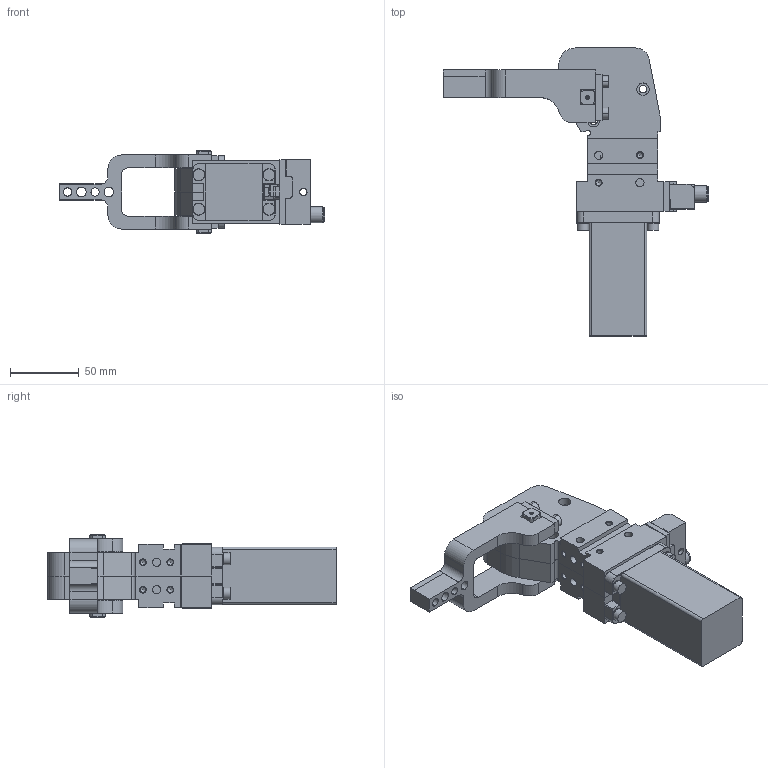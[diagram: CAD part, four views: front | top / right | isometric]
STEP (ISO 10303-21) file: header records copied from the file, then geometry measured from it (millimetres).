
FILE_DESCRIPTION(/* description */ (''),/* implementation_level */ '2;1');
FILE_NAME(/* name */ 'P32-32_0-Montaj_stp.stp',/* time_stamp */ '2020-12-11T10:59:40+03:00',/* author */ (''),/* organization */ (''),/* preprocessor_version */ 'ST-DEVELOPER v16',/* originating_system */ 'SIEMENS PLM Software NX 11.0',/* authorisation */ '');
FILE_SCHEMA (('AUTOMOTIVE_DESIGN { 1 0 10303 214 3 1 1 1 }'));
Length unit declared in the file: millimetre
Products named in the file (15): P32-32-17_Uzun_montaj_pimi; P32-32-18_Kisa_montaj_pimi; P32-32-10_Sari_burc_tahrik_mili yataklama; P32-32-09_Kucuk_rulman; P32-32-08_Rulman_destek_plakasi; P32-32-16_Sensor_kontrol_1650065_P1; P32-32-15_Sensor Kartus; P32-32-04_piston_borusu; P32-32-06_Baski_tirnagi; P32-32-05_tahrik_mili; P32-32-13_M5_vida; P32-32-03_Piston_ust_kapak; P32-32-10_Baski_kolu; P32-32-02_Govde_sol; P32-32_Montaj_stp
Assembly tree (15 placements, depth 2):
  P32-32_Montaj_stp
    P32-32-02_Govde_sol
    P32-32-10_Baski_kolu
    P32-32-03_Piston_ust_kapak
    P32-32-13_M5_vida
    P32-32-05_tahrik_mili
    P32-32-06_Baski_tirnagi
    P32-32-04_piston_borusu
    P32-32-15_Sensor Kartus
    P32-32-16_Sensor_kontrol_1650065_P1
    P32-32-08_Rulman_destek_plakasi
    P32-32-09_Kucuk_rulman  x2
    P32-32-10_Sari_burc_tahrik_mili yataklama
    P32-32-18_Kisa_montaj_pimi
    P32-32-17_Uzun_montaj_pimi
Bounding box: 193 x 209.5 x 60 mm (x, y, z)
Volume: 377108.7 mm3; surface area: 137617.7 mm2
Topology: 23 solids, 23 shells, 770 faces, 1943 edges, 1276 vertices
Faces by surface type: plane 388, cylinder 237, cone 139, torus 3, sphere 3
Full cylindrical faces by diameter (mm): 1.8 x2, 2 x2, 2.5 x2, 3.2 x10, 3.242 x2, 3.3 x4, 4.134 x16, 4.5 x4, 5 x6, 5.3 x4, 5.4 x1, 5.5 x8, 6 x8, 6.5 x1, 7.55 x2, 8 x10, 8.3 x1, 8.5 x4, 8.566 x2, 8.9 x4, 9 x7, 10.53 x1, 12 x1, 12.5 x1, 14 x1, 15 x2, 15.5 x3, 16 x3, 18 x3, 19 x2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
Entity records: 21793 total; most frequent: DIRECTION 3783, CARTESIAN_POINT 3658, ORIENTED_EDGE 3206, EDGE_CURVE 1603, AXIS2_PLACEMENT_3D 1422, VERTEX_POINT 1191, EDGE_LOOP 1128, LINE 939
